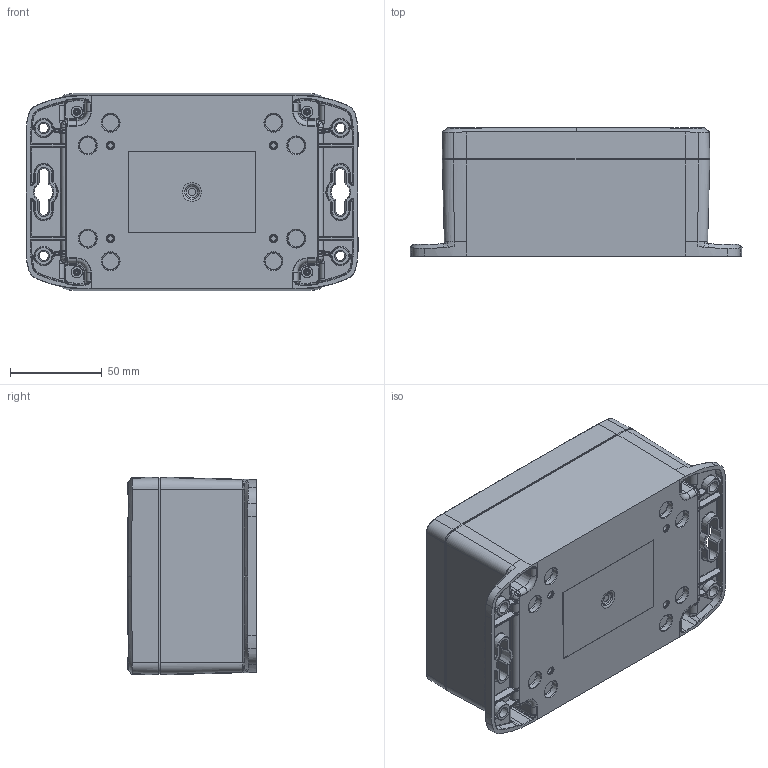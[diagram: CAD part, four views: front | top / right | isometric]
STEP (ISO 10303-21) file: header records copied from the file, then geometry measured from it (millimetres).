
FILE_DESCRIPTION (( 'STEP AP214' ), '1' );
FILE_NAME ('HN-46-04.STEP', '2026-09-24T18:01:26', ( '' ), ( '' ), 'SwSTEP 2.0', 'SolidWorks 2026', '' );
FILE_SCHEMA (( 'AUTOMOTIVE_DESIGN' ));
Length unit declared in the file: inch
Products named in the file (9): HN-46C_HN-46C-02; INSERTS-3_INSERTS-3; HN-46B_HN-46BF-00; HN-46G_default; HN-46BN_HN-46BFN-00; SCREWS-054_DEFAULT; HN-46-04; LABEL-100; HN-46CG_HN-46CG-02
Assembly tree (14 placements, depth 3):
  HN-46-04
    HN-46B_HN-46BF-00
      HN-46BN_HN-46BFN-00
      INSERTS-3_INSERTS-3  x4
      LABEL-100
    HN-46CG_HN-46CG-02
      HN-46C_HN-46C-02
      HN-46G_default
    SCREWS-054_DEFAULT  x4
Bounding box: 181.22 x 70.2 x 107.95 mm (x, y, z)
Volume: 246641.7 mm3; surface area: 167904.4 mm2
Topology: 11 solids, 13 shells, 3809 faces, 9027 edges, 5218 vertices
Faces by surface type: bspline 1072, torus 746, cone 656, cylinder 646, plane 625, sphere 64
Full cylindrical faces by diameter (mm): 2.413 x4, 2.705 x4, 4.318 x4, 4.445 x16, 4.699 x8, 5.283 x8, 6.274 x4, 6.858 x4
Entity records: 137607 total; most frequent: CARTESIAN_POINT 67031, ORIENTED_EDGE 15778, DIRECTION 12897, EDGE_CURVE 7892, AXIS2_PLACEMENT_3D 5554, VERTEX_POINT 4717, EDGE_LOOP 3694, FACE_OUTER_BOUND 3495
